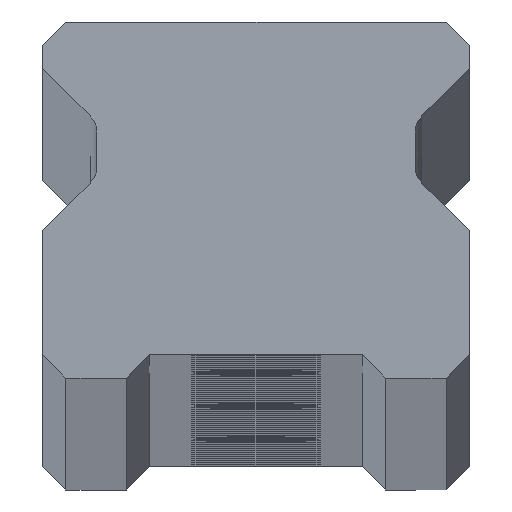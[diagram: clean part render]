
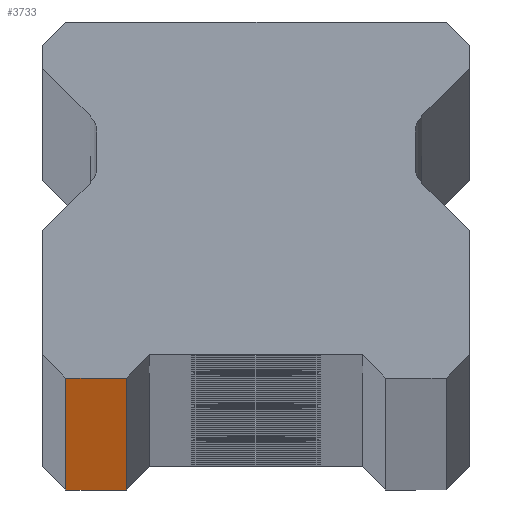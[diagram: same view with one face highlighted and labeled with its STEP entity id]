
A CAD part, top view. The second image highlights one B-rep face of the part: STEP entity #3733.
In plain terms, the highlighted planar face has unit normal (0, -1, 0).
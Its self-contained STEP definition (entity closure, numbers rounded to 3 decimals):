
#19 = DIRECTION ( 'NONE',  ( 0., 0., 1. ) ) ;
#79 = CARTESIAN_POINT ( 'NONE',  ( -10.25, 0., -1730. ) ) ;
#262 = LINE ( 'NONE', #1915, #2877 ) ;
#312 = ORIENTED_EDGE ( 'NONE', *, *, #9783, .F. ) ;
#590 = EDGE_LOOP ( 'NONE', ( #3585, #966, #312, #5910 ) ) ;
#681 = VERTEX_POINT ( 'NONE', #7125 ) ;
#966 = ORIENTED_EDGE ( 'NONE', *, *, #1972, .T. ) ;
#1859 = EDGE_CURVE ( 'NONE', #681, #6382, #4650, .T. ) ;
#1915 = CARTESIAN_POINT ( 'NONE',  ( 11.5, 0., 1730. ) ) ;
#1972 = EDGE_CURVE ( 'NONE', #4091, #2042, #5848, .T. ) ;
#2042 = VERTEX_POINT ( 'NONE', #3110 ) ;
#2675 = DIRECTION ( 'NONE',  ( 0., 1., 0. ) ) ;
#2877 = VECTOR ( 'NONE', #7257, 1000. ) ;
#3024 = FACE_OUTER_BOUND ( 'NONE', #590, .T. ) ;
#3110 = CARTESIAN_POINT ( 'NONE',  ( -7., 0., 1730. ) ) ;
#3362 = VECTOR ( 'NONE', #4456, 1000. ) ;
#3585 = ORIENTED_EDGE ( 'NONE', *, *, #7810, .T. ) ;
#3733 = ADVANCED_FACE ( 'NONE', ( #3024 ), #5575, .F. ) ;
#3827 = CARTESIAN_POINT ( 'NONE',  ( -7., 0., -1730. ) ) ;
#3898 = CARTESIAN_POINT ( 'NONE',  ( 11.5, 0., -1730. ) ) ;
#4091 = VERTEX_POINT ( 'NONE', #8946 ) ;
#4456 = DIRECTION ( 'NONE',  ( 0., 0., -1. ) ) ;
#4650 = LINE ( 'NONE', #8367, #3362 ) ;
#5285 = DIRECTION ( 'NONE',  ( 1., 0., 0. ) ) ;
#5575 = PLANE ( 'NONE',  #6374 ) ;
#5715 = DIRECTION ( 'NONE',  ( -1., 0., 0. ) ) ;
#5848 = LINE ( 'NONE', #3827, #9746 ) ;
#5910 = ORIENTED_EDGE ( 'NONE', *, *, #1859, .T. ) ;
#6374 = AXIS2_PLACEMENT_3D ( 'NONE', #7209, #2675, #5715 ) ;
#6382 = VERTEX_POINT ( 'NONE', #79 ) ;
#7125 = CARTESIAN_POINT ( 'NONE',  ( -10.25, 0., 1730. ) ) ;
#7200 = VECTOR ( 'NONE', #5285, 1000. ) ;
#7209 = CARTESIAN_POINT ( 'NONE',  ( 11.5, 0., 1730. ) ) ;
#7257 = DIRECTION ( 'NONE',  ( 1., 0., 0. ) ) ;
#7810 = EDGE_CURVE ( 'NONE', #6382, #4091, #8608, .T. ) ;
#8367 = CARTESIAN_POINT ( 'NONE',  ( -10.25, 0., 1730. ) ) ;
#8608 = LINE ( 'NONE', #3898, #7200 ) ;
#8946 = CARTESIAN_POINT ( 'NONE',  ( -7., 0., -1730. ) ) ;
#9746 = VECTOR ( 'NONE', #19, 1000. ) ;
#9783 = EDGE_CURVE ( 'NONE', #681, #2042, #262, .T. ) ;
